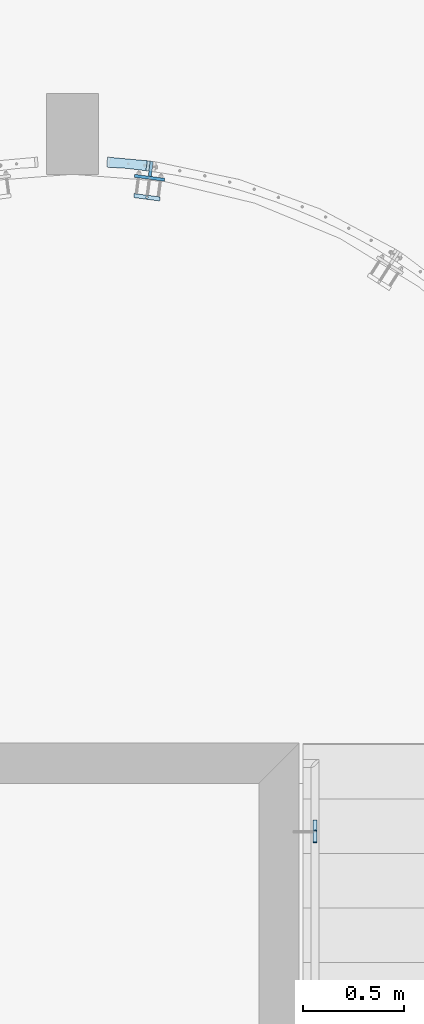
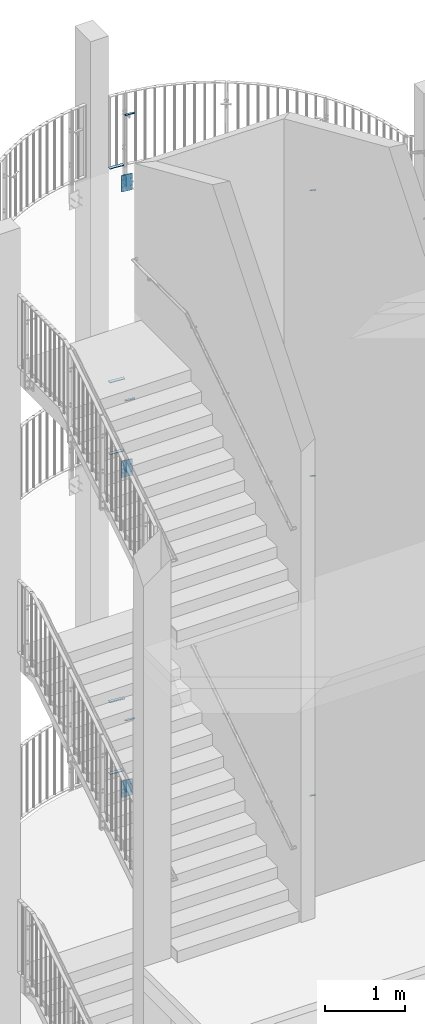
# One storey, part 115 of 296: 17 plates, 34 openings.
"""IFC2X3 building model written with IfcOpenShell, lengths in millimetres."""

from ifc_helpers import new_model, entity, si_unit, converted_unit, point, frame, frame_2d, origin, origin_with_axes, origin_2d_with_axis, place, context, project, spatial, polyline, circle_curve, line_curve, trimmed, segment, composite_curve, circle, outline, extrude, material, layer, layer_set, element, save


model = new_model("IFC2X3")

# Units and contexts
model_context = context("Model", 3, precision=1e-09, world=origin_with_axes())
ifc_project = project(units=[si_unit("LENGTHUNIT", "METRE", prefix="MILLI"), si_unit("AREAUNIT", "SQUARE_METRE"), si_unit("VOLUMEUNIT", "CUBIC_METRE"), converted_unit("PLANEANGLEUNIT", "DEGREE", entity("IfcPlaneAngleMeasure", 0.01745329), si_unit("PLANEANGLEUNIT", "RADIAN"), dimensions=[0, 0, 0, 0, 0, 0, 0])], contexts=[model_context])

# Site, building, storey
site_placement = place(None, origin_with_axes())
site = spatial("IfcSite", under=ifc_project, at=site_placement, Name="TZD-S?d | Treppenhausgel?nder", CompositionType="ELEMENT")
building_placement = place(site_placement, origin_with_axes())
building = spatial("IfcBuilding", under=site, at=building_placement, Name="Struktur 1", CompositionType="ELEMENT")
storey_placement = place(building_placement, origin_with_axes())
storey = spatial("IfcBuildingStorey", under=building, at=storey_placement, Name="Default Storey", CompositionType="ELEMENT", Elevation=0.0)

# Plate, openings
ifc_material = material(Name="S235JR")
ifc_layer_1 = layer(ifc_material, 10.0)
ifc_layer_set_1 = layer_set([ifc_layer_1], Name="S235JR")
plate_1_placement = place(None, frame((3289.69150724, 2842.486211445, 11725.0), z_axis=(0.0, 0.0, 1.0), x_axis=(0.130526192, 0.991444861, 0.0)))
plate_1 = element("IfcPlate", 1, at=plate_1_placement, inside=storey, material=ifc_layer_set_1, Name="-", ObjectType="-", context=model_context, shape_type="SweptSolid", body=[
    extrude(outline(polyline([(0.0, 0.0), (50.001415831, 0.0), (49.260436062, 99.288524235), (41.988521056, 198.31316434), (-7.877202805, 194.651254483), (-0.739562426, 97.455086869), (0.0, 0.0)])), origin_with_axes(), (0.0, 0.0, -1.0), 10.0),
])
opening_1_placement = place(plate_1_placement, frame((49.260436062, 99.288524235, 0.01), z_axis=(0.0, 0.0, 1.0), x_axis=(-0.073238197, 0.997314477, 0.0)))
element("IfcOpeningElement", 2, at=opening_1_placement, cuts=plate_1, ObjectType="Opening", context=model_context, shape_type="SweptSolid", body=[
    extrude(outline(composite_curve([segment(trimmed(line_curve((0.0, 0.0), (1.0, 0.0), 99.291289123), [point((0.0, 0.0))], [point((99.291289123, 0.0))], True, "CARTESIAN"), True, "CONTINUOUS"), segment(trimmed(circle_curve(frame_2d((99.291289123, 3015.0), x_axis=(-1.0, 0.0)), 3015.0), [point((99.291289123, 0.0))], [point((-99.076150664, 6.532722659))], False, "CARTESIAN"), True, "CONTINUOUS"), segment(trimmed(line_curve((-99.076150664, 6.532722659), (0.997833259, -0.065793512), 99.291289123), [point((-99.076150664, 6.532722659))], [point((0.0, 0.0))], True, "CARTESIAN"), True, "CONTINUOUS")], self_intersect=False)), origin(), (0.0, 0.0, -1.0), 10.02),
])
opening_2_placement = place(plate_1_placement, frame((-0.739562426, 97.455086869, 0.0), z_axis=(0.0, 0.0, -1.0), x_axis=(0.007588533, -0.999971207, 0.0)))
element("IfcOpeningElement", 3, at=opening_2_placement, cuts=plate_1, ObjectType="Opening", context=model_context, shape_type="SweptSolid", body=[
    extrude(outline(composite_curve([segment(trimmed(line_curve((0.0, 0.0), (1.0, 0.0), 97.457893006), [point((0.0, 0.0))], [point((97.457893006, 0.0))], True, "CARTESIAN"), True, "CONTINUOUS"), segment(trimmed(circle_curve(frame_2d((97.457893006, 2965.0), x_axis=(-1.0, 0.0)), 2965.0), [point((97.457893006, 0.0))], [point((-97.247533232, 6.399858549))], False, "CARTESIAN"), True, "CONTINUOUS"), segment(trimmed(line_curve((-97.247533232, 6.399858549), (0.997841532, -0.065667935), 97.457893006), [point((-97.247533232, 6.399858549))], [point((0.0, 0.0))], True, "CARTESIAN"), True, "CONTINUOUS")], self_intersect=False)), origin(), (0.0, 0.0, -1.0), 10.0),
])

ifc_layer_2 = layer(ifc_material, 15.0)
ifc_layer_set_2 = layer_set([ifc_layer_2], Name="S235JR")
plate_2_placement = place(None, frame((3306.789112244, 2799.976219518, 11475.001), z_axis=(-0.130526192, -0.991444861, 0.0), x_axis=(0.991444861, -0.130526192, 0.0)))
plate_2 = element("IfcPlate", 4, at=plate_2_placement, inside=storey, material=ifc_layer_set_2, Name="Girder", ObjectType="Girder", context=model_context, shape_type="SweptSolid", body=[
    extrude(outline(polyline([(-75.0, -125.0), (75.0, -125.0), (75.0, 125.0), (-75.0, 125.0), (-75.0, -125.0)])), origin_with_axes(), (0.0, 0.0, -1.0), 15.0),
])
opening_3_placement = place(plate_2_placement, frame((47.999, 55.0, 0.5), z_axis=(0.0, 0.0, 1.0), x_axis=(1.0, 0.0, 0.0)))
element("IfcOpeningElement", 5, at=opening_3_placement, cuts=plate_2, ObjectType="Opening", context=model_context, shape_type="SweptSolid", body=[
    extrude(circle(Radius=7.001, at=frame_2d((7.001, 0.0), x_axis=(1.0, 0.0))), origin(), (0.0, 0.0, -1.0), 16.0),
])
opening_4_placement = place(plate_2_placement, frame((-62.001, 55.0, 0.5), z_axis=(0.0, 0.0, 1.0), x_axis=(1.0, 0.0, 0.0)))
element("IfcOpeningElement", 6, at=opening_4_placement, cuts=plate_2, ObjectType="Opening", context=model_context, shape_type="SweptSolid", body=[
    extrude(circle(Radius=7.001, at=frame_2d((7.001, 0.0), x_axis=(1.0, 0.0))), origin(), (0.0, 0.0, -1.0), 16.0),
])
opening_5_placement = place(plate_2_placement, frame((47.999, -55.0, 0.5), z_axis=(0.0, 0.0, 1.0), x_axis=(1.0, 0.0, 0.0)))
element("IfcOpeningElement", 7, at=opening_5_placement, cuts=plate_2, ObjectType="Opening", context=model_context, shape_type="SweptSolid", body=[
    extrude(circle(Radius=7.001, at=frame_2d((7.001, 0.0), x_axis=(1.0, 0.0))), origin(), (0.0, 0.0, -1.0), 16.0),
])
opening_6_placement = place(plate_2_placement, frame((-62.001, -55.0, 0.5), z_axis=(0.0, 0.0, 1.0), x_axis=(1.0, 0.0, 0.0)))
element("IfcOpeningElement", 8, at=opening_6_placement, cuts=plate_2, ObjectType="Opening", context=model_context, shape_type="SweptSolid", body=[
    extrude(circle(Radius=7.001, at=frame_2d((7.001, 0.0), x_axis=(1.0, 0.0))), origin(), (0.0, 0.0, -1.0), 16.0),
])

plate_3_placement = place(None, frame((3306.205900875, 2853.006021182, 11475.001), z_axis=(-0.991444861, 0.130526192, 0.0), x_axis=(-0.130526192, -0.991444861, 0.0)))
plate_3 = element("IfcPlate", 9, at=plate_3_placement, inside=storey, material=ifc_layer_set_2, Name="Girder", ObjectType="Girder", context=model_context, shape_type="SweptSolid", body=[
    extrude(outline(polyline([(-37.5, -75.0), (37.5, -75.0), (37.5, 75.0), (-37.5, 75.0), (-37.5, -75.0)])), origin_with_axes(), (0.0, 0.0, -1.0), 15.0),
])
opening_7_placement = place(plate_3_placement, frame((-19.501, 50.0, 0.5), z_axis=(0.0, 0.0, 1.0), x_axis=(1.0, 0.0, 0.0)))
element("IfcOpeningElement", 10, at=opening_7_placement, cuts=plate_3, ObjectType="Opening", context=model_context, shape_type="SweptSolid", body=[
    extrude(circle(Radius=7.001, at=frame_2d((7.001, 0.0), x_axis=(1.0, 0.0))), origin(), (0.0, 0.0, -1.0), 16.0),
])
opening_8_placement = place(plate_3_placement, frame((-19.501, -50.0, 0.5), z_axis=(0.0, 0.0, 1.0), x_axis=(1.0, 0.0, 0.0)))
element("IfcOpeningElement", 11, at=opening_8_placement, cuts=plate_3, ObjectType="Opening", context=model_context, shape_type="SweptSolid", body=[
    extrude(circle(Radius=7.001, at=frame_2d((7.001, 0.0), x_axis=(1.0, 0.0))), origin(), (0.0, 0.0, -1.0), 16.0),
])

# Plate, opening
plate_4_placement = place(None, frame((3295.041754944, 2710.746181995, 12585.0), z_axis=(0.0, 0.0, -1.0), x_axis=(0.991444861, -0.130526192, 0.0)))
plate_4 = element("IfcPlate", 12, at=plate_4_placement, inside=storey, material=ifc_layer_set_1, Name="Girder", ObjectType="Girder", context=model_context, shape_type="SweptSolid", body=[
    extrude(outline(polyline([(-65.0, -10.0), (65.0, -10.0), (65.0, 10.0), (-65.0, 10.0), (-65.0, -10.0)])), origin_with_axes(), (0.0, 0.0, -1.0), 10.0),
])
opening_9_placement = place(plate_4_placement, frame((5.19e-07, -5.23e-07, 0.5), z_axis=(0.0, 0.0, -1.0), x_axis=(0.991444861, -0.130526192, 0.0)))
element("IfcOpeningElement", 13, at=opening_9_placement, cuts=plate_4, ObjectType="Opening", context=model_context, shape_type="SweptSolid", body=[
    extrude(circle(Radius=5.001, at=origin_2d_with_axis()), origin(), (0.0, 0.0, 1.0), 11.0),
])

# Plate, openings
plate_5_placement = place(None, frame((3289.69150724, 2842.486211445, 7350.0), z_axis=(0.0, 0.0, 1.0), x_axis=(0.130526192, 0.991444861, 0.0)))
plate_5 = element("IfcPlate", 14, at=plate_5_placement, inside=storey, material=ifc_layer_set_1, Name="-", ObjectType="-", context=model_context, shape_type="SweptSolid", body=[
    extrude(outline(polyline([(0.0, 0.0), (50.001415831, 0.0), (49.260436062, 99.288524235), (41.988521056, 198.31316434), (-7.877202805, 194.651254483), (-0.739562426, 97.455086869), (0.0, 0.0)])), origin_with_axes(), (0.0, 0.0, -1.0), 10.0),
])
opening_10_placement = place(plate_5_placement, frame((49.260436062, 99.288524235, 0.01), z_axis=(0.0, 0.0, 1.0), x_axis=(-0.073238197, 0.997314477, 0.0)))
element("IfcOpeningElement", 15, at=opening_10_placement, cuts=plate_5, ObjectType="Opening", context=model_context, shape_type="SweptSolid", body=[
    extrude(outline(composite_curve([segment(trimmed(line_curve((0.0, 0.0), (1.0, 0.0), 99.291289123), [point((0.0, 0.0))], [point((99.291289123, 0.0))], True, "CARTESIAN"), True, "CONTINUOUS"), segment(trimmed(circle_curve(frame_2d((99.291289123, 3015.0), x_axis=(-1.0, 0.0)), 3015.0), [point((99.291289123, 0.0))], [point((-99.076150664, 6.532722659))], False, "CARTESIAN"), True, "CONTINUOUS"), segment(trimmed(line_curve((-99.076150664, 6.532722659), (0.997833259, -0.065793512), 99.291289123), [point((-99.076150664, 6.532722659))], [point((0.0, 0.0))], True, "CARTESIAN"), True, "CONTINUOUS")], self_intersect=False)), origin(), (0.0, 0.0, -1.0), 10.02),
])
opening_11_placement = place(plate_5_placement, frame((-0.739562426, 97.455086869, 0.0), z_axis=(0.0, 0.0, -1.0), x_axis=(0.007588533, -0.999971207, 0.0)))
element("IfcOpeningElement", 16, at=opening_11_placement, cuts=plate_5, ObjectType="Opening", context=model_context, shape_type="SweptSolid", body=[
    extrude(outline(composite_curve([segment(trimmed(line_curve((0.0, 0.0), (1.0, 0.0), 97.457893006), [point((0.0, 0.0))], [point((97.457893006, 0.0))], True, "CARTESIAN"), True, "CONTINUOUS"), segment(trimmed(circle_curve(frame_2d((97.457893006, 2965.0), x_axis=(-1.0, 0.0)), 2965.0), [point((97.457893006, 0.0))], [point((-97.247533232, 6.399858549))], False, "CARTESIAN"), True, "CONTINUOUS"), segment(trimmed(line_curve((-97.247533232, 6.399858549), (0.997841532, -0.065667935), 97.457893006), [point((-97.247533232, 6.399858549))], [point((0.0, 0.0))], True, "CARTESIAN"), True, "CONTINUOUS")], self_intersect=False)), origin(), (0.0, 0.0, -1.0), 10.0),
])

plate_6_placement = place(None, frame((3304.573085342, 2840.603555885, 8440.0), z_axis=(0.0, 0.0, -1.0), x_axis=(-0.991771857, 0.128017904, 0.0)))
plate_6 = element("IfcPlate", 17, at=plate_6_placement, inside=storey, material=ifc_layer_set_1, Name="Girder", ObjectType="Girder", context=model_context, shape_type="SweptSolid", body=[
    extrude(outline(polyline([(0.0, 0.0), (104.966740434, 0.0), (209.67070119, -7.422748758), (213.206463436, 42.452078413), (106.673678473, 50.004477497), (-0.126475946, 49.999997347), (0.0, 0.0)])), origin_with_axes(), (0.0, 0.0, -1.0), 10.0),
])
opening_12_placement = place(plate_6_placement, frame((104.966740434, 0.0, 0.0), z_axis=(0.0, 0.0, -1.0), x_axis=(0.997496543, -0.070715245, 0.0)))
element("IfcOpeningElement", 18, at=opening_12_placement, cuts=plate_6, ObjectType="Opening", context=model_context, shape_type="SweptSolid", body=[
    extrude(outline(composite_curve([segment(trimmed(line_curve((0.0, 0.0), (1.0, 0.0), 104.966740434), [point((0.0, 0.0))], [point((104.966740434, 0.0))], True, "CARTESIAN"), True, "CONTINUOUS"), segment(trimmed(circle_curve(frame_2d((104.966740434, 2965.0), x_axis=(-1.0, 0.0)), 2965.0), [point((104.966740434, 0.0))], [point((-104.703960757, 7.422748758))], False, "CARTESIAN"), True, "CONTINUOUS"), segment(trimmed(line_curve((-104.703960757, 7.422748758), (0.997496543, -0.070715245), 104.966740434), [point((-104.703960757, 7.422748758))], [point((0.0, 0.0))], True, "CARTESIAN"), True, "CONTINUOUS")], self_intersect=False)), origin(), (0.0, 0.0, -1.0), 10.0),
])
opening_13_placement = place(plate_6_placement, frame((106.673678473, 50.004477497, 0.01), z_axis=(0.0, 0.0, 1.0), x_axis=(-0.999999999, -4.1949e-05, 0.0)))
element("IfcOpeningElement", 19, at=opening_13_placement, cuts=plate_6, ObjectType="Opening", context=model_context, shape_type="SweptSolid", body=[
    extrude(outline(composite_curve([segment(trimmed(line_curve((0.0, 0.0), (1.0, 0.0), 106.800154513), [point((0.0, 0.0))], [point((106.800154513, 0.0))], True, "CARTESIAN"), True, "CONTINUOUS"), segment(trimmed(circle_curve(frame_2d((106.800154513, 3015.0), x_axis=(-1.0, 0.0)), 3015.0), [point((106.800154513, 0.0))], [point((-106.532468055, 7.556868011))], False, "CARTESIAN"), True, "CONTINUOUS"), segment(trimmed(line_curve((-106.532468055, 7.556868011), (0.997493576, -0.070757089), 106.800154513), [point((-106.532468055, 7.556868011))], [point((0.0, 0.0))], True, "CARTESIAN"), True, "CONTINUOUS")], self_intersect=False)), origin(), (0.0, 0.0, -1.0), 10.02),
])

# Plate, opening
plate_7_placement = place(None, frame((3295.041754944, 2710.746181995, 8210.0), z_axis=(0.0, 0.0, -1.0), x_axis=(0.991444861, -0.130526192, 0.0)))
plate_7 = element("IfcPlate", 20, at=plate_7_placement, inside=storey, material=ifc_layer_set_1, Name="Girder", ObjectType="Girder", context=model_context, shape_type="SweptSolid", body=[
    extrude(outline(polyline([(-65.0, -10.0), (65.0, -10.0), (65.0, 10.0), (-65.0, 10.0), (-65.0, -10.0)])), origin_with_axes(), (0.0, 0.0, -1.0), 10.0),
])
opening_14_placement = place(plate_7_placement, frame((1.65e-07, -1.43e-07, 0.5), z_axis=(0.0, 0.0, -1.0), x_axis=(0.991444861, -0.130526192, 0.0)))
element("IfcOpeningElement", 21, at=opening_14_placement, cuts=plate_7, ObjectType="Opening", context=model_context, shape_type="SweptSolid", body=[
    extrude(circle(Radius=5.001, at=origin_2d_with_axis()), origin(), (0.0, 0.0, 1.0), 11.0),
])

# Plate, openings
plate_8_placement = place(None, frame((3306.205900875, 2853.006021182, 7100.001), z_axis=(-0.991444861, 0.130526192, 0.0), x_axis=(-0.130526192, -0.991444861, 0.0)))
plate_8 = element("IfcPlate", 22, at=plate_8_placement, inside=storey, material=ifc_layer_set_2, Name="Girder", ObjectType="Girder", context=model_context, shape_type="SweptSolid", body=[
    extrude(outline(polyline([(-37.5, -75.0), (37.5, -75.0), (37.5, 75.0), (-37.5, 75.0), (-37.5, -75.0)])), origin_with_axes(), (0.0, 0.0, -1.0), 15.0),
])
opening_15_placement = place(plate_8_placement, frame((-19.501, 50.0, 0.5), z_axis=(0.0, 0.0, 1.0), x_axis=(1.0, 0.0, 0.0)))
element("IfcOpeningElement", 23, at=opening_15_placement, cuts=plate_8, ObjectType="Opening", context=model_context, shape_type="SweptSolid", body=[
    extrude(circle(Radius=7.001, at=frame_2d((7.001, 0.0), x_axis=(1.0, 0.0))), origin(), (0.0, 0.0, -1.0), 16.0),
])
opening_16_placement = place(plate_8_placement, frame((-19.501, -50.0, 0.5), z_axis=(0.0, 0.0, 1.0), x_axis=(1.0, 0.0, 0.0)))
element("IfcOpeningElement", 24, at=opening_16_placement, cuts=plate_8, ObjectType="Opening", context=model_context, shape_type="SweptSolid", body=[
    extrude(circle(Radius=7.001, at=frame_2d((7.001, 0.0), x_axis=(1.0, 0.0))), origin(), (0.0, 0.0, -1.0), 16.0),
])

plate_9_placement = place(None, frame((3306.789112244, 2799.976219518, 7100.001), z_axis=(-0.130526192, -0.991444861, 0.0), x_axis=(0.991444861, -0.130526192, 0.0)))
plate_9 = element("IfcPlate", 25, at=plate_9_placement, inside=storey, material=ifc_layer_set_2, Name="Girder", ObjectType="Girder", context=model_context, shape_type="SweptSolid", body=[
    extrude(outline(polyline([(-75.0, -125.0), (75.0, -125.0), (75.0, 125.0), (-75.0, 125.0), (-75.0, -125.0)])), origin_with_axes(), (0.0, 0.0, -1.0), 15.0),
])
opening_17_placement = place(plate_9_placement, frame((47.999, 55.0, 0.5), z_axis=(0.0, 0.0, 1.0), x_axis=(1.0, 0.0, 0.0)))
element("IfcOpeningElement", 26, at=opening_17_placement, cuts=plate_9, ObjectType="Opening", context=model_context, shape_type="SweptSolid", body=[
    extrude(circle(Radius=7.001, at=frame_2d((7.001, 0.0), x_axis=(1.0, 0.0))), origin(), (0.0, 0.0, -1.0), 16.0),
])
opening_18_placement = place(plate_9_placement, frame((-62.001, 55.0, 0.5), z_axis=(0.0, 0.0, 1.0), x_axis=(1.0, 0.0, 0.0)))
element("IfcOpeningElement", 27, at=opening_18_placement, cuts=plate_9, ObjectType="Opening", context=model_context, shape_type="SweptSolid", body=[
    extrude(circle(Radius=7.001, at=frame_2d((7.001, 0.0), x_axis=(1.0, 0.0))), origin(), (0.0, 0.0, -1.0), 16.0),
])
opening_19_placement = place(plate_9_placement, frame((47.999, -55.0, 0.5), z_axis=(0.0, 0.0, 1.0), x_axis=(1.0, 0.0, 0.0)))
element("IfcOpeningElement", 28, at=opening_19_placement, cuts=plate_9, ObjectType="Opening", context=model_context, shape_type="SweptSolid", body=[
    extrude(circle(Radius=7.001, at=frame_2d((7.001, 0.0), x_axis=(1.0, 0.0))), origin(), (0.0, 0.0, -1.0), 16.0),
])
opening_20_placement = place(plate_9_placement, frame((-62.001, -55.0, 0.5), z_axis=(0.0, 0.0, 1.0), x_axis=(1.0, 0.0, 0.0)))
element("IfcOpeningElement", 29, at=opening_20_placement, cuts=plate_9, ObjectType="Opening", context=model_context, shape_type="SweptSolid", body=[
    extrude(circle(Radius=7.001, at=frame_2d((7.001, 0.0), x_axis=(1.0, 0.0))), origin(), (0.0, 0.0, -1.0), 16.0),
])

# Plate, opening
plate_10_placement = place(None, frame((4129.999, -440.0, 13032.651846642), z_axis=(0.0, 0.543478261, 0.839423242), x_axis=(0.0, -0.839423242, 0.543478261)))
plate_10 = element("IfcPlate", 30, at=plate_10_placement, inside=storey, material=ifc_layer_set_1, Name="Girder", ObjectType="Girder", context=model_context, shape_type="SweptSolid", body=[
    extrude(outline(polyline([(-65.0, -10.0), (65.0, -10.0), (65.0, 10.0), (-65.0, 10.0), (-65.0, -10.0)])), origin_with_axes(), (0.0, 0.0, 1.0), 10.0),
])
opening_21_placement = place(plate_10_placement, frame((5.000999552, 3.5e-07, -0.5), z_axis=(0.0, 0.0, -1.0), x_axis=(-1.0, 0.0, 0.0)))
element("IfcOpeningElement", 31, at=opening_21_placement, cuts=plate_10, ObjectType="Opening", context=model_context, shape_type="SweptSolid", body=[
    extrude(circle(Radius=5.001, at=frame_2d((5.001, 0.0), x_axis=(1.0, 0.0))), origin(), (0.0, 0.0, -1.0), 11.0),
])

plate_11_placement = place(None, frame((4129.999, -440.0, 8654.282842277), z_axis=(0.0, 0.543608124, 0.839339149), x_axis=(0.0, -0.839339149, 0.543608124)))
plate_11 = element("IfcPlate", 32, at=plate_11_placement, inside=storey, material=ifc_layer_set_1, Name="Girder", ObjectType="Girder", context=model_context, shape_type="SweptSolid", body=[
    extrude(outline(polyline([(-65.0, -10.0), (65.0, -10.0), (65.0, 10.0), (-65.0, 10.0), (-65.0, -10.0)])), origin_with_axes(), (0.0, 0.0, 1.0), 10.0),
])
opening_22_placement = place(plate_11_placement, frame((5.001000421, -4.78e-07, -0.5), z_axis=(0.0, 0.0, -1.0), x_axis=(-1.0, 0.0, 0.0)))
element("IfcOpeningElement", 33, at=opening_22_placement, cuts=plate_11, ObjectType="Opening", context=model_context, shape_type="SweptSolid", body=[
    extrude(circle(Radius=5.001, at=frame_2d((5.001, 0.0), x_axis=(1.0, 0.0))), origin(), (0.0, 0.0, -1.0), 11.0),
])

plate_12_placement = place(None, frame((4129.999, -440.0, 3760.942564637), z_axis=(0.0, 0.542959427, 0.83975893), x_axis=(0.0, -0.83975893, 0.542959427)))
plate_12 = element("IfcPlate", 34, at=plate_12_placement, inside=storey, material=ifc_layer_set_1, Name="Girder", ObjectType="Girder", context=model_context, shape_type="SweptSolid", body=[
    extrude(outline(polyline([(-65.0, -10.0), (65.0, -10.0), (65.0, 10.0), (-65.0, 10.0), (-65.0, -10.0)])), origin_with_axes(), (0.0, 0.0, 1.0), 10.0),
])
opening_23_placement = place(plate_12_placement, frame((5.000999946, 1.29e-07, -0.5), z_axis=(0.0, 0.0, -1.0), x_axis=(-1.0, 0.0, 0.0)))
element("IfcOpeningElement", 35, at=opening_23_placement, cuts=plate_12, ObjectType="Opening", context=model_context, shape_type="SweptSolid", body=[
    extrude(circle(Radius=5.001, at=frame_2d((5.001, 0.0), x_axis=(1.0, 0.0))), origin(), (0.0, 0.0, -1.0), 11.0),
])

# Plate, openings
plate_13_placement = place(None, frame((3289.69150724, 2842.486211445, 2450.0), z_axis=(0.0, 0.0, 1.0), x_axis=(0.130526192, 0.991444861, 0.0)))
plate_13 = element("IfcPlate", 36, at=plate_13_placement, inside=storey, material=ifc_layer_set_1, Name="-", ObjectType="-", context=model_context, shape_type="SweptSolid", body=[
    extrude(outline(polyline([(0.0, 0.0), (50.001415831, 0.0), (49.260436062, 99.288524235), (41.988521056, 198.31316434), (-7.877202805, 194.651254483), (-0.739562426, 97.455086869), (0.0, 0.0)])), origin_with_axes(), (0.0, 0.0, -1.0), 10.0),
])
opening_24_placement = place(plate_13_placement, frame((49.260436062, 99.288524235, 0.01), z_axis=(0.0, 0.0, 1.0), x_axis=(-0.073238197, 0.997314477, 0.0)))
element("IfcOpeningElement", 37, at=opening_24_placement, cuts=plate_13, ObjectType="Opening", context=model_context, shape_type="SweptSolid", body=[
    extrude(outline(composite_curve([segment(trimmed(line_curve((0.0, 0.0), (1.0, 0.0), 99.291289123), [point((0.0, 0.0))], [point((99.291289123, 0.0))], True, "CARTESIAN"), True, "CONTINUOUS"), segment(trimmed(circle_curve(frame_2d((99.291289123, 3015.0), x_axis=(-1.0, 0.0)), 3015.0), [point((99.291289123, 0.0))], [point((-99.076150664, 6.532722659))], False, "CARTESIAN"), True, "CONTINUOUS"), segment(trimmed(line_curve((-99.076150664, 6.532722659), (0.997833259, -0.065793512), 99.291289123), [point((-99.076150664, 6.532722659))], [point((0.0, 0.0))], True, "CARTESIAN"), True, "CONTINUOUS")], self_intersect=False)), origin(), (0.0, 0.0, -1.0), 10.02),
])
opening_25_placement = place(plate_13_placement, frame((-0.739562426, 97.455086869, 0.0), z_axis=(0.0, 0.0, -1.0), x_axis=(0.007588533, -0.999971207, 0.0)))
element("IfcOpeningElement", 38, at=opening_25_placement, cuts=plate_13, ObjectType="Opening", context=model_context, shape_type="SweptSolid", body=[
    extrude(outline(composite_curve([segment(trimmed(line_curve((0.0, 0.0), (1.0, 0.0), 97.457893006), [point((0.0, 0.0))], [point((97.457893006, 0.0))], True, "CARTESIAN"), True, "CONTINUOUS"), segment(trimmed(circle_curve(frame_2d((97.457893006, 2965.0), x_axis=(-1.0, 0.0)), 2965.0), [point((97.457893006, 0.0))], [point((-97.247533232, 6.399858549))], False, "CARTESIAN"), True, "CONTINUOUS"), segment(trimmed(line_curve((-97.247533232, 6.399858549), (0.997841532, -0.065667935), 97.457893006), [point((-97.247533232, 6.399858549))], [point((0.0, 0.0))], True, "CARTESIAN"), True, "CONTINUOUS")], self_intersect=False)), origin(), (0.0, 0.0, -1.0), 10.0),
])

plate_14_placement = place(None, frame((3304.573085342, 2840.603555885, 3540.0), z_axis=(0.0, 0.0, -1.0), x_axis=(-0.991771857, 0.128017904, 0.0)))
plate_14 = element("IfcPlate", 39, at=plate_14_placement, inside=storey, material=ifc_layer_set_1, Name="Girder", ObjectType="Girder", context=model_context, shape_type="SweptSolid", body=[
    extrude(outline(polyline([(0.0, 0.0), (104.966740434, 0.0), (209.67070119, -7.422748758), (213.206463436, 42.452078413), (106.673678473, 50.004477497), (-0.126475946, 49.999997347), (0.0, 0.0)])), origin_with_axes(), (0.0, 0.0, -1.0), 10.0),
])
opening_26_placement = place(plate_14_placement, frame((104.966740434, 0.0, 0.0), z_axis=(0.0, 0.0, -1.0), x_axis=(0.997496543, -0.070715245, 0.0)))
element("IfcOpeningElement", 40, at=opening_26_placement, cuts=plate_14, ObjectType="Opening", context=model_context, shape_type="SweptSolid", body=[
    extrude(outline(composite_curve([segment(trimmed(line_curve((0.0, 0.0), (1.0, 0.0), 104.966740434), [point((0.0, 0.0))], [point((104.966740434, 0.0))], True, "CARTESIAN"), True, "CONTINUOUS"), segment(trimmed(circle_curve(frame_2d((104.966740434, 2965.0), x_axis=(-1.0, 0.0)), 2965.0), [point((104.966740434, 0.0))], [point((-104.703960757, 7.422748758))], False, "CARTESIAN"), True, "CONTINUOUS"), segment(trimmed(line_curve((-104.703960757, 7.422748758), (0.997496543, -0.070715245), 104.966740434), [point((-104.703960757, 7.422748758))], [point((0.0, 0.0))], True, "CARTESIAN"), True, "CONTINUOUS")], self_intersect=False)), origin(), (0.0, 0.0, -1.0), 10.0),
])
opening_27_placement = place(plate_14_placement, frame((106.673678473, 50.004477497, 0.01), z_axis=(0.0, 0.0, 1.0), x_axis=(-0.999999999, -4.1949e-05, 0.0)))
element("IfcOpeningElement", 41, at=opening_27_placement, cuts=plate_14, ObjectType="Opening", context=model_context, shape_type="SweptSolid", body=[
    extrude(outline(composite_curve([segment(trimmed(line_curve((0.0, 0.0), (1.0, 0.0), 106.800154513), [point((0.0, 0.0))], [point((106.800154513, 0.0))], True, "CARTESIAN"), True, "CONTINUOUS"), segment(trimmed(circle_curve(frame_2d((106.800154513, 3015.0), x_axis=(-1.0, 0.0)), 3015.0), [point((106.800154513, 0.0))], [point((-106.532468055, 7.556868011))], False, "CARTESIAN"), True, "CONTINUOUS"), segment(trimmed(line_curve((-106.532468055, 7.556868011), (0.997493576, -0.070757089), 106.800154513), [point((-106.532468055, 7.556868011))], [point((0.0, 0.0))], True, "CARTESIAN"), True, "CONTINUOUS")], self_intersect=False)), origin(), (0.0, 0.0, -1.0), 10.02),
])

# Plate, opening
plate_15_placement = place(None, frame((3295.041754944, 2710.746181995, 3310.0), z_axis=(0.0, 0.0, -1.0), x_axis=(0.991444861, -0.130526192, 0.0)))
plate_15 = element("IfcPlate", 42, at=plate_15_placement, inside=storey, material=ifc_layer_set_1, Name="Girder", ObjectType="Girder", context=model_context, shape_type="SweptSolid", body=[
    extrude(outline(polyline([(-65.0, -10.0), (65.0, -10.0), (65.0, 10.0), (-65.0, 10.0), (-65.0, -10.0)])), origin_with_axes(), (0.0, 0.0, -1.0), 10.0),
])
opening_28_placement = place(plate_15_placement, frame((-5.96e-07, 6.37e-07, 0.5), z_axis=(0.0, 0.0, -1.0), x_axis=(0.991444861, -0.130526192, 0.0)))
element("IfcOpeningElement", 43, at=opening_28_placement, cuts=plate_15, ObjectType="Opening", context=model_context, shape_type="SweptSolid", body=[
    extrude(circle(Radius=5.001, at=origin_2d_with_axis()), origin(), (0.0, 0.0, 1.0), 11.0),
])

# Plate, openings
plate_16_placement = place(None, frame((3306.205900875, 2853.006021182, 2200.001), z_axis=(-0.991444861, 0.130526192, 0.0), x_axis=(-0.130526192, -0.991444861, 0.0)))
plate_16 = element("IfcPlate", 44, at=plate_16_placement, inside=storey, material=ifc_layer_set_2, Name="Girder", ObjectType="Girder", context=model_context, shape_type="SweptSolid", body=[
    extrude(outline(polyline([(-37.5, -75.0), (37.5, -75.0), (37.5, 75.0), (-37.5, 75.0), (-37.5, -75.0)])), origin_with_axes(), (0.0, 0.0, -1.0), 15.0),
])
opening_29_placement = place(plate_16_placement, frame((-19.501, 50.0, 0.5), z_axis=(0.0, 0.0, 1.0), x_axis=(1.0, 0.0, 0.0)))
element("IfcOpeningElement", 45, at=opening_29_placement, cuts=plate_16, ObjectType="Opening", context=model_context, shape_type="SweptSolid", body=[
    extrude(circle(Radius=7.001, at=frame_2d((7.001, 0.0), x_axis=(1.0, 0.0))), origin(), (0.0, 0.0, -1.0), 16.0),
])
opening_30_placement = place(plate_16_placement, frame((-19.501, -50.0, 0.5), z_axis=(0.0, 0.0, 1.0), x_axis=(1.0, 0.0, 0.0)))
element("IfcOpeningElement", 46, at=opening_30_placement, cuts=plate_16, ObjectType="Opening", context=model_context, shape_type="SweptSolid", body=[
    extrude(circle(Radius=7.001, at=frame_2d((7.001, 0.0), x_axis=(1.0, 0.0))), origin(), (0.0, 0.0, -1.0), 16.0),
])

plate_17_placement = place(None, frame((3306.789112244, 2799.976219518, 2200.001), z_axis=(-0.130526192, -0.991444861, 0.0), x_axis=(0.991444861, -0.130526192, 0.0)))
plate_17 = element("IfcPlate", 47, at=plate_17_placement, inside=storey, material=ifc_layer_set_2, Name="Girder", ObjectType="Girder", context=model_context, shape_type="SweptSolid", body=[
    extrude(outline(polyline([(-75.0, -125.0), (75.0, -125.0), (75.0, 125.0), (-75.0, 125.0), (-75.0, -125.0)])), origin_with_axes(), (0.0, 0.0, -1.0), 15.0),
])
opening_31_placement = place(plate_17_placement, frame((47.999, 55.0, 0.5), z_axis=(0.0, 0.0, 1.0), x_axis=(1.0, 0.0, 0.0)))
element("IfcOpeningElement", 48, at=opening_31_placement, cuts=plate_17, ObjectType="Opening", context=model_context, shape_type="SweptSolid", body=[
    extrude(circle(Radius=7.001, at=frame_2d((7.001, 0.0), x_axis=(1.0, 0.0))), origin(), (0.0, 0.0, -1.0), 16.0),
])
opening_32_placement = place(plate_17_placement, frame((-62.001, 55.0, 0.5), z_axis=(0.0, 0.0, 1.0), x_axis=(1.0, 0.0, 0.0)))
element("IfcOpeningElement", 49, at=opening_32_placement, cuts=plate_17, ObjectType="Opening", context=model_context, shape_type="SweptSolid", body=[
    extrude(circle(Radius=7.001, at=frame_2d((7.001, 0.0), x_axis=(1.0, 0.0))), origin(), (0.0, 0.0, -1.0), 16.0),
])
opening_33_placement = place(plate_17_placement, frame((47.999, -55.0, 0.5), z_axis=(0.0, 0.0, 1.0), x_axis=(1.0, 0.0, 0.0)))
element("IfcOpeningElement", 50, at=opening_33_placement, cuts=plate_17, ObjectType="Opening", context=model_context, shape_type="SweptSolid", body=[
    extrude(circle(Radius=7.001, at=frame_2d((7.001, 0.0), x_axis=(1.0, 0.0))), origin(), (0.0, 0.0, -1.0), 16.0),
])
opening_34_placement = place(plate_17_placement, frame((-62.001, -55.0, 0.5), z_axis=(0.0, 0.0, 1.0), x_axis=(1.0, 0.0, 0.0)))
element("IfcOpeningElement", 51, at=opening_34_placement, cuts=plate_17, ObjectType="Opening", context=model_context, shape_type="SweptSolid", body=[
    extrude(circle(Radius=7.001, at=frame_2d((7.001, 0.0), x_axis=(1.0, 0.0))), origin(), (0.0, 0.0, -1.0), 16.0),
])

save(model, "model.ifc")
